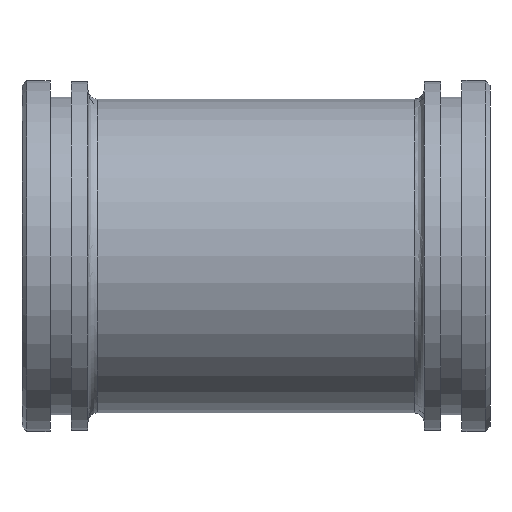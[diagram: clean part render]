
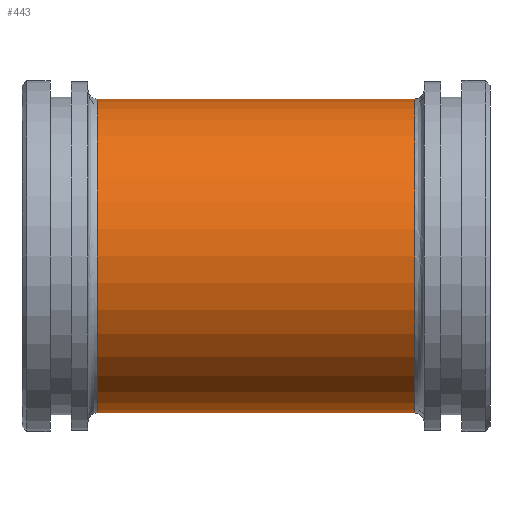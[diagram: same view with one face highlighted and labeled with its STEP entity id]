
A CAD part, front view. The second image highlights one B-rep face of the part: STEP entity #443.
In plain terms, the highlighted cylindrical face has radius 33.5 mm (diameter 67 mm), a full revolution.
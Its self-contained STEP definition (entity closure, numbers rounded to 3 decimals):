
#409=CARTESIAN_POINT('',(-33.9,33.5,0.0));
#410=VERTEX_POINT('',#409);
#411=CARTESIAN_POINT('',(-33.9,0.0,0.0));
#412=DIRECTION('',(1.0,0.0,0.0));
#413=DIRECTION('',(0.0,1.0,0.0));
#414=AXIS2_PLACEMENT_3D('',#411,#412,#413);
#415=CIRCLE('',#414,33.5);
#416=EDGE_CURVE('',#410,#410,#415,.T.);
#424=CARTESIAN_POINT('',(0.,0.0,0.0));
#425=DIRECTION('',(1.0,0.0,0.0));
#426=DIRECTION('',(0.0,1.0,0.0));
#427=AXIS2_PLACEMENT_3D('',#424,#425,#426);
#428=CYLINDRICAL_SURFACE('',#427,33.5);
#429=CARTESIAN_POINT('',(33.9,33.5,0.0));
#430=VERTEX_POINT('',#429);
#431=CARTESIAN_POINT('',(33.9,0.0,0.0));
#432=DIRECTION('',(1.0,0.0,0.0));
#433=DIRECTION('',(0.0,1.0,0.0));
#434=AXIS2_PLACEMENT_3D('',#431,#432,#433);
#435=CIRCLE('',#434,33.5);
#436=EDGE_CURVE('',#430,#430,#435,.T.);
#437=ORIENTED_EDGE('',*,*,#436,.F.);
#438=EDGE_LOOP('',(#437));
#439=FACE_OUTER_BOUND('',#438,.T.);
#440=ORIENTED_EDGE('',*,*,#416,.T.);
#441=EDGE_LOOP('',(#440));
#442=FACE_BOUND('',#441,.T.);
#443=ADVANCED_FACE('',(#439,#442),#428,.T.);
